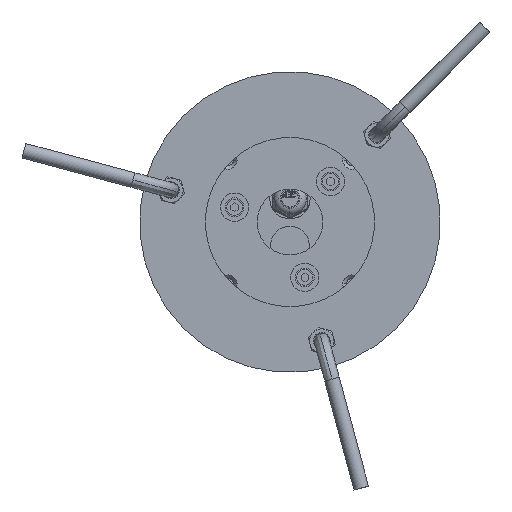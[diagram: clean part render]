
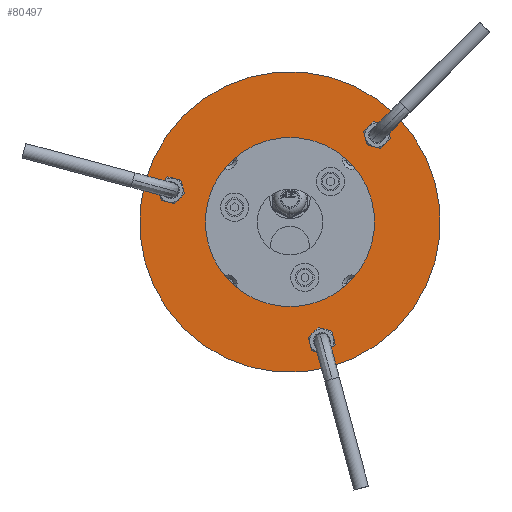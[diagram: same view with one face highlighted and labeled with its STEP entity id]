
A CAD part, front view. The second image highlights one B-rep face of the part: STEP entity #80497.
In plain terms, the highlighted planar face has unit normal (0, -1, 0) as drawn and (0, 0, 1) by its records, which use the part's own axes.
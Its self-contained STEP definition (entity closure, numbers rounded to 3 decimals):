
#80268=CARTESIAN_POINT('',(0.,0.,1.5));
#80269=DIRECTION('',(0.,0.,1.));
#80270=DIRECTION('',(1.,0.,0.));
#80271=AXIS2_PLACEMENT_3D('',#80268,#80269,#80270);
#80273=CARTESIAN_POINT('',(0.,0.,1.5));
#80274=DIRECTION('',(0.,0.,1.));
#80275=DIRECTION('',(-1.,0.,0.));
#80276=AXIS2_PLACEMENT_3D('',#80273,#80274,#80275);
#80278=CARTESIAN_POINT('',(0.,0.,1.5));
#80279=DIRECTION('',(0.,0.,-1.));
#80280=DIRECTION('',(1.,0.,0.));
#80281=AXIS2_PLACEMENT_3D('',#80278,#80279,#80280);
#80283=CARTESIAN_POINT('',(0.,0.,1.5));
#80284=DIRECTION('',(0.,0.,-1.));
#80285=DIRECTION('',(-1.,0.,0.));
#80286=AXIS2_PLACEMENT_3D('',#80283,#80284,#80285);
#80288=CARTESIAN_POINT('',(0.,-65.5,1.5));
#80289=DIRECTION('',(0.,0.,-1.));
#80290=DIRECTION('',(1.,0.,0.));
#80291=AXIS2_PLACEMENT_3D('',#80288,#80289,#80290);
#80293=CARTESIAN_POINT('',(0.,-65.5,1.5));
#80294=DIRECTION('',(0.,0.,-1.));
#80295=DIRECTION('',(-1.,0.,0.));
#80296=AXIS2_PLACEMENT_3D('',#80293,#80294,#80295);
#80298=CARTESIAN_POINT('',(-56.725,32.75,1.5));
#80299=DIRECTION('',(0.,0.,-1.));
#80300=DIRECTION('',(1.,0.,0.));
#80301=AXIS2_PLACEMENT_3D('',#80298,#80299,#80300);
#80303=CARTESIAN_POINT('',(-56.725,32.75,1.5));
#80304=DIRECTION('',(0.,0.,-1.));
#80305=DIRECTION('',(-1.,0.,0.));
#80306=AXIS2_PLACEMENT_3D('',#80303,#80304,#80305);
#80308=CARTESIAN_POINT('',(56.725,32.75,1.5));
#80309=DIRECTION('',(0.,0.,-1.));
#80310=DIRECTION('',(1.,0.,0.));
#80311=AXIS2_PLACEMENT_3D('',#80308,#80309,#80310);
#80313=CARTESIAN_POINT('',(56.725,32.75,1.5));
#80314=DIRECTION('',(0.,0.,-1.));
#80315=DIRECTION('',(-1.,0.,0.));
#80316=AXIS2_PLACEMENT_3D('',#80313,#80314,#80315);
#80346=CARTESIAN_POINT('',(-45.,0.,1.5));
#80347=CARTESIAN_POINT('',(45.,0.,1.5));
#80348=VERTEX_POINT('',#80346);
#80349=VERTEX_POINT('',#80347);
#80358=CARTESIAN_POINT('',(-61.225,32.75,1.5));
#80359=CARTESIAN_POINT('',(-52.225,32.75,1.5));
#80360=VERTEX_POINT('',#80358);
#80361=VERTEX_POINT('',#80359);
#80366=CARTESIAN_POINT('',(4.5,-65.5,1.5));
#80367=CARTESIAN_POINT('',(-4.5,-65.5,1.5));
#80368=VERTEX_POINT('',#80366);
#80369=VERTEX_POINT('',#80367);
#80374=CARTESIAN_POINT('',(61.225,32.75,1.5));
#80375=VERTEX_POINT('',#80374);
#80376=CARTESIAN_POINT('',(52.225,32.75,1.5));
#80377=VERTEX_POINT('',#80376);
#80382=CARTESIAN_POINT('',(80.,0.,1.5));
#80383=CARTESIAN_POINT('',(-80.,0.,1.5));
#80384=VERTEX_POINT('',#80382);
#80385=VERTEX_POINT('',#80383);
#80465=CARTESIAN_POINT('',(0.,0.,1.5));
#80466=DIRECTION('',(0.,0.,1.));
#80467=DIRECTION('',(1.,0.,0.));
#80468=AXIS2_PLACEMENT_3D('',#80465,#80466,#80467);
#80469=PLANE('',#80468);
#80470=ORIENTED_EDGE('',*,*,#80445,.F.);
#80471=ORIENTED_EDGE('',*,*,#80458,.F.);
#80472=EDGE_LOOP('',(#80470,#80471));
#80473=FACE_OUTER_BOUND('',#80472,.F.);
#80475=ORIENTED_EDGE('',*,*,#80474,.F.);
#80477=ORIENTED_EDGE('',*,*,#80476,.F.);
#80478=EDGE_LOOP('',(#80475,#80477));
#80479=FACE_BOUND('',#80478,.F.);
#80481=ORIENTED_EDGE('',*,*,#80480,.F.);
#80483=ORIENTED_EDGE('',*,*,#80482,.F.);
#80484=EDGE_LOOP('',(#80481,#80483));
#80485=FACE_BOUND('',#80484,.F.);
#80486=ORIENTED_EDGE('',*,*,#80395,.F.);
#80488=ORIENTED_EDGE('',*,*,#80487,.F.);
#80489=EDGE_LOOP('',(#80486,#80488));
#80490=FACE_BOUND('',#80489,.F.);
#80492=ORIENTED_EDGE('',*,*,#80491,.F.);
#80494=ORIENTED_EDGE('',*,*,#80493,.F.);
#80495=EDGE_LOOP('',(#80492,#80494));
#80496=FACE_BOUND('',#80495,.F.);
#80497=ADVANCED_FACE('',(#80473,#80479,#80485,#80490,#80496),#80469,.T.);
#80272=CIRCLE('',#80271,80.);
#80277=CIRCLE('',#80276,80.);
#80282=CIRCLE('',#80281,45.);
#80287=CIRCLE('',#80286,45.);
#80292=CIRCLE('',#80291,4.5);
#80297=CIRCLE('',#80296,4.5);
#80302=CIRCLE('',#80301,4.5);
#80307=CIRCLE('',#80306,4.5);
#80312=CIRCLE('',#80311,4.5);
#80317=CIRCLE('',#80316,4.5);
#80395=EDGE_CURVE('',#80361,#80360,#80302,.T.);
#80445=EDGE_CURVE('',#80384,#80385,#80272,.T.);
#80458=EDGE_CURVE('',#80385,#80384,#80277,.T.);
#80474=EDGE_CURVE('',#80349,#80348,#80282,.T.);
#80476=EDGE_CURVE('',#80348,#80349,#80287,.T.);
#80480=EDGE_CURVE('',#80368,#80369,#80292,.T.);
#80482=EDGE_CURVE('',#80369,#80368,#80297,.T.);
#80487=EDGE_CURVE('',#80360,#80361,#80307,.T.);
#80491=EDGE_CURVE('',#80375,#80377,#80312,.T.);
#80493=EDGE_CURVE('',#80377,#80375,#80317,.T.);
